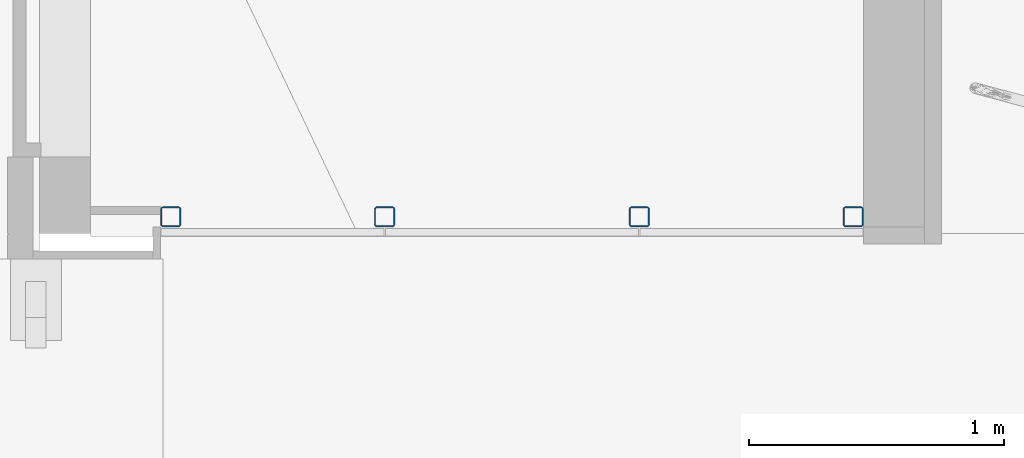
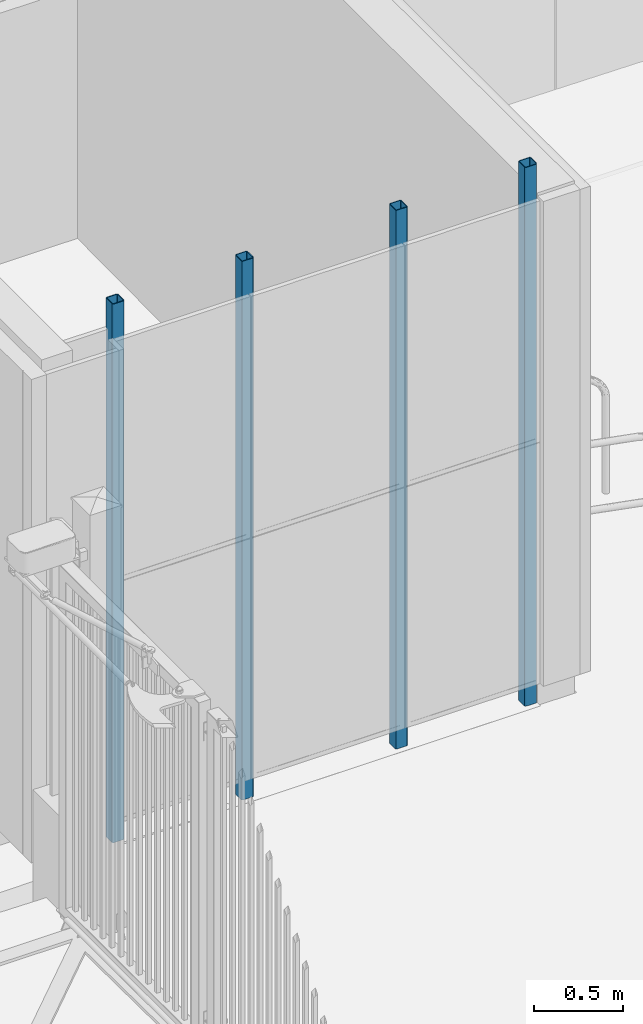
# One storey, part 3 of 77: 4 columns.
"""IFC2X3 building model written with IfcOpenShell, lengths in millimetres."""

from ifc_helpers import new_model, entity, si_unit, converted_unit, derived_unit, direction, frame, frame_2d, origin, place, context, subcontext, project, spatial, polyline, circle_curve, parameter, trimmed, segment, composite_curve, outline, extrude, source, transform, mapped, material, type_object, type_shapes, element, save


model = new_model("IFC2X3")

# Units and contexts
model_context = context("Model", 3, precision=0.01, world=origin(), true_north=direction((6.12303176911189e-17, 1.0)))
body_context = subcontext(model_context, "Body", "Model", "MODEL_VIEW")
ifc_project = project(units=[si_unit("LENGTHUNIT", "METRE", prefix="MILLI"), si_unit("AREAUNIT", "SQUARE_METRE"), si_unit("VOLUMEUNIT", "CUBIC_METRE"), converted_unit("PLANEANGLEUNIT", "DEGREE", entity("IfcRatioMeasure", 0.0174532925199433), si_unit("PLANEANGLEUNIT", "RADIAN"), dimensions=[0, 0, 0, 0, 0, 0, 0]), si_unit("MASSUNIT", "GRAM", prefix="KILO"), derived_unit("MASSDENSITYUNIT", [(si_unit("MASSUNIT", "GRAM", prefix="KILO"), 1), (si_unit("LENGTHUNIT", "METRE"), -3)]), si_unit("TIMEUNIT", "SECOND"), si_unit("FREQUENCYUNIT", "HERTZ"), si_unit("THERMODYNAMICTEMPERATUREUNIT", "DEGREE_CELSIUS"), derived_unit("THERMALTRANSMITTANCEUNIT", [(si_unit("MASSUNIT", "GRAM", prefix="KILO"), 1), (si_unit("THERMODYNAMICTEMPERATUREUNIT", "KELVIN"), -1), (si_unit("TIMEUNIT", "SECOND"), -3)]), derived_unit("VOLUMETRICFLOWRATEUNIT", [(si_unit("LENGTHUNIT", "METRE"), 3), (si_unit("TIMEUNIT", "SECOND"), -1)]), si_unit("ELECTRICCURRENTUNIT", "AMPERE"), si_unit("ELECTRICVOLTAGEUNIT", "VOLT"), si_unit("POWERUNIT", "WATT"), si_unit("FORCEUNIT", "NEWTON", prefix="KILO"), si_unit("ILLUMINANCEUNIT", "LUX"), si_unit("LUMINOUSFLUXUNIT", "LUMEN"), si_unit("LUMINOUSINTENSITYUNIT", "CANDELA"), derived_unit("USERDEFINED", [(si_unit("MASSUNIT", "GRAM", prefix="KILO"), -1), (si_unit("LENGTHUNIT", "METRE"), -2), (si_unit("TIMEUNIT", "SECOND"), 3), (si_unit("LUMINOUSFLUXUNIT", "LUMEN"), 1)]), derived_unit("LINEARVELOCITYUNIT", [(si_unit("LENGTHUNIT", "METRE"), 1), (si_unit("TIMEUNIT", "SECOND"), -1)]), si_unit("PRESSUREUNIT", "PASCAL"), derived_unit("USERDEFINED", [(si_unit("LENGTHUNIT", "METRE"), -2), (si_unit("MASSUNIT", "GRAM", prefix="KILO"), 1), (si_unit("TIMEUNIT", "SECOND"), -2)])], contexts=[model_context])

# Site, building, storey
site_placement = place(None, origin())
site = spatial("IfcSite", under=ifc_project, at=site_placement, Name="Default", CompositionType="ELEMENT")
building_placement = place(site_placement, origin())
building = spatial("IfcBuilding", under=site, at=building_placement, CompositionType="ELEMENT")
storey_placement = place(building_placement, origin())
storey = spatial("IfcBuildingStorey", under=building, at=storey_placement, Name="1. KORRUS", CompositionType="ELEMENT", Elevation=0.0)

# Columns
ifc_material = material(Name="must (RAL9005)")
column_type = type_object("IfcColumnType", Name="80x80", PredefinedType="COLUMN")
shared_shape = source(origin(), body_context, "Body", "SweptSolid", [
    extrude(outline(composite_curve([segment(polyline([(-30.0, -40.0), (30.0, -40.0)]), True, "CONTINUOUS"), segment(trimmed(circle_curve(frame_2d((30.0, -30.0), x_axis=(-1.0, 0.0)), 9.99999999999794), [parameter(90.0000000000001)], [parameter(180.0)], True, "PARAMETER"), True, "CONTINUOUS"), segment(polyline([(40.0, -30.0), (40.0, 30.0)]), True, "CONTINUOUS"), segment(trimmed(circle_curve(frame_2d((30.0, 30.0), x_axis=(-1.0, 0.0)), 9.99999999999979), [parameter(180.0)], [parameter(270.0)], True, "PARAMETER"), True, "CONTINUOUS"), segment(polyline([(30.0, 40.0), (-30.0, 40.0)]), True, "CONTINUOUS"), segment(trimmed(circle_curve(frame_2d((-30.0, 30.0), x_axis=(-1.0, 0.0)), 10.0000000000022), [parameter(270.0)], [parameter(360.0)], True, "PARAMETER"), True, "CONTINUOUS"), segment(polyline([(-40.0, 30.0), (-40.0, -30.0)]), True, "CONTINUOUS"), segment(trimmed(circle_curve(frame_2d((-30.0, -30.0), x_axis=(-1.0, 0.0)), 9.99999999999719), [parameter(360.0)], [parameter(89.9999999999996)], True, "PARAMETER"), True, "CONTINUOUS")], self_intersect=False), holes=[composite_curve([segment(trimmed(circle_curve(frame_2d((-30.0, -30.0), x_axis=(-1.0, 0.0)), 4.99999999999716), [parameter(0.0)], [parameter(90.0000000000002)], True, "PARAMETER"), False, "CONTINUOUS"), segment(polyline([(-35.0, -30.0), (-35.0, 30.0)]), True, "CONTINUOUS"), segment(trimmed(circle_curve(frame_2d((-30.0, 30.0), x_axis=(-1.0, 0.0)), 4.99999999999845), [parameter(270.0)], [parameter(360.0)], True, "PARAMETER"), False, "CONTINUOUS"), segment(polyline([(-30.0, 35.0), (30.0, 35.0)]), True, "CONTINUOUS"), segment(trimmed(circle_curve(frame_2d((30.0, 30.0), x_axis=(-1.0, 0.0)), 5.00000000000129), [parameter(180.0)], [parameter(270.0)], True, "PARAMETER"), False, "CONTINUOUS"), segment(polyline([(35.0, 30.0), (35.0, -30.0)]), True, "CONTINUOUS"), segment(trimmed(circle_curve(frame_2d((30.0, -30.0), x_axis=(-1.0, 0.0)), 5.00000000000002), [parameter(90.0000000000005)], [parameter(180.0)], True, "PARAMETER"), False, "CONTINUOUS"), segment(polyline([(30.0, -35.0), (-30.0, -35.0)]), True, "CONTINUOUS")], self_intersect=False)]), frame((0.0, 0.0, -100.0), z_axis=(0.0, 0.0, 1.0), x_axis=(-1.0, 0.0, 0.0)), (0.0, 0.0, 1.0), 3700.0),
])
type_shapes(column_type, [shared_shape])
for number, where, name in (
    (1, (-15120.2351867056, 35465.0994344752, 0.0), "teraspost:80x80"),
    (2, (-15960.0, 35465.0994344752, 0.0), "teraspost:80x80"),
    (3, (-14120.2322935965, 35465.0994344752, 0.0), "teraspost:80x80"),
    (4, (-13280.2343602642, 35465.0994344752, 0.0), "teraspost:80x80"),
):
    element("IfcColumn", number, at=place(storey_placement, frame(where)), inside=storey, type_object=column_type, material=ifc_material, Name=name, ObjectType="80x80", context=body_context, shape_type="MappedRepresentation", body=[
        mapped(shared_shape, transform((0.0, 0.0, 0.0), scale=1.0)),
    ])

save(model, "model.ifc")
